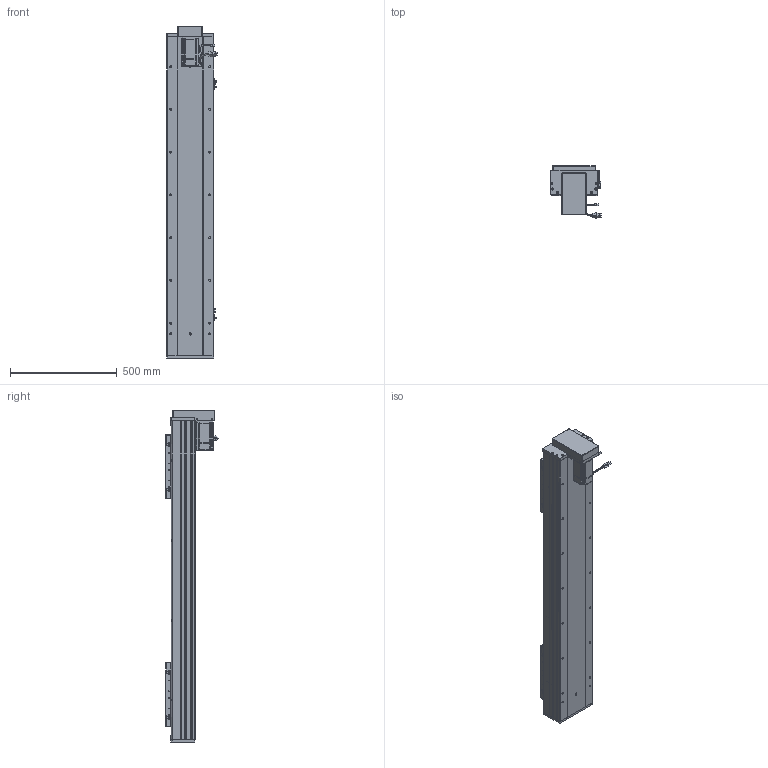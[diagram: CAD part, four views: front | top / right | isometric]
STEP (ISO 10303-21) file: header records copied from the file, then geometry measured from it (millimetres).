
FILE_DESCRIPTION (( 'STEP AP203' ), '1' );
FILE_NAME ('RY220F-L2525-800-BK-邧嶺.SLDASM_1050.step', '2022-08-06T08:07:49', ( '' ), ( '' ), 'SwSTEP 2.0', 'SolidWorks 2016', '' );
FILE_SCHEMA (( 'CONFIG_CONTROL_DESIGN' ));
Length unit declared in the file: millimetre
Products named in the file (15): RY220F蛌殏菁釱-800-邧嶺_1050; RY220F-滅鳥奻裔; RY220F-詩湍揤踡輸; 覜茼ん672; RY220F綴裔啣; RY220狟殏萇儂欶; RY220狟殏萇儂假蚾啣; 侐源滅袉蝶; RY220F臏賑釱25-32佪裝; RY220F-蛌殏奻裔啣-800_1050; RY220F-祥凄詩湍-蛌殏-800_1050; 滅袉蝶18-24; 怢湛750W_ECMA-CX0807ES; RY220F-L2525-800-BK-邧嶺.SLDASM_1050; RY220F-672覜茼んえ
Assembly tree (24 placements, depth 2):
  RY220F-L2525-800-BK-邧嶺.SLDASM_1050
    RY220F蛌殏菁釱-800-邧嶺_1050
    RY220F-蛌殏奻裔啣-800_1050  x2
    怢湛750W_ECMA-CX0807ES
    RY220F臏賑釱25-32佪裝  x2
    RY220F-滅鳥奻裔  x2
    滅袉蝶18-24  x3
    RY220F綴裔啣
    RY220F-祥凄詩湍-蛌殏-800_1050
    RY220F-詩湍揤踡輸  x2
    覜茼ん672  x3
    RY220F-672覜茼んえ  x2
    侐源滅袉蝶  x2
    RY220狟殏萇儂假蚾啣
    RY220狟殏萇儂欶
Bounding box: 237.27 x 247.24 x 1553 mm (x, y, z)
Volume: 14925231.7 mm3; surface area: 3858901.5 mm2
Topology: 25 solids, 25 shells, 2783 faces, 7562 edges, 4675 vertices
Faces by surface type: cylinder 1238, plane 1062, cone 412, bspline 45, sphere 16, torus 10
Entity records: 69017 total; most frequent: CARTESIAN_POINT 18717, ORIENTED_EDGE 10170, DIRECTION 9873, EDGE_CURVE 5085, AXIS2_PLACEMENT_3D 3498, VERTEX_POINT 3291, LINE 2877, VECTOR 2877
